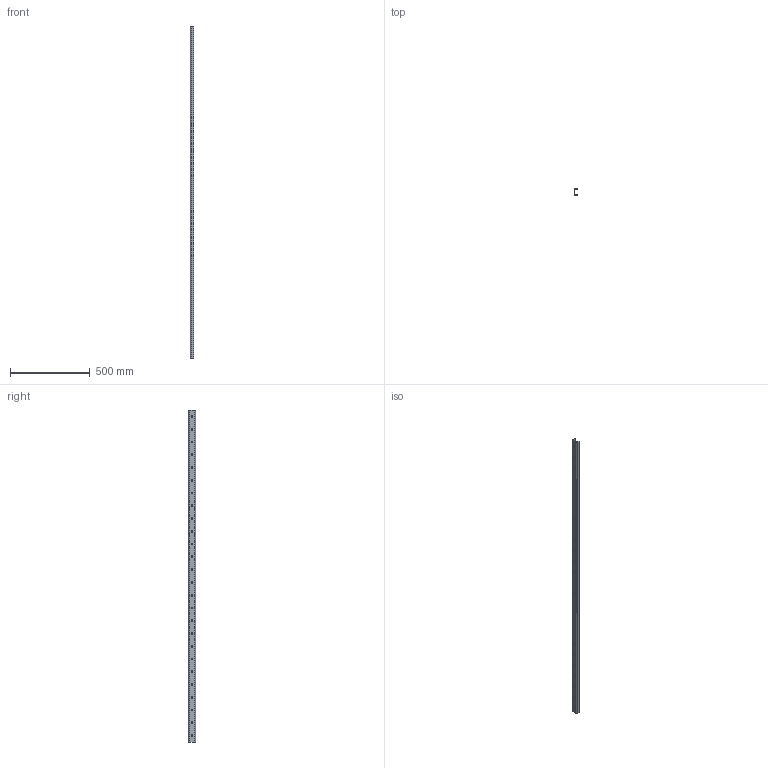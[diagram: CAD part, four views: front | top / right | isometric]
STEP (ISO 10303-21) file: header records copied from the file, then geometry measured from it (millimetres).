
FILE_DESCRIPTION (( 'STEP AP203' ), '1' );
FILE_NAME ('L1971.45U-2080.step', '2026-01-14T16:06:40', ( '' ), ( '' ), 'SwSTEP 2.0', 'SolidWorks 2019', '' );
FILE_SCHEMA (( 'CONFIG_CONTROL_DESIGN' ));
Length unit declared in the file: millimetre
Products named in the file (1): L1971.45U-2080
Bounding box: 24.5 x 44.8 x 2080 mm (x, y, z)
Volume: 725927.3 mm3; surface area: 345837.6 mm2
Topology: 1 solids, 1 shells, 144 faces, 426 edges, 284 vertices
Faces by surface type: cylinder 82, plane 62
Entity records: 5055 total; most frequent: DIRECTION 880, CARTESIAN_POINT 855, ORIENTED_EDGE 852, EDGE_CURVE 426, AXIS2_PLACEMENT_3D 309, VERTEX_POINT 284, VECTOR 262, LINE 262
